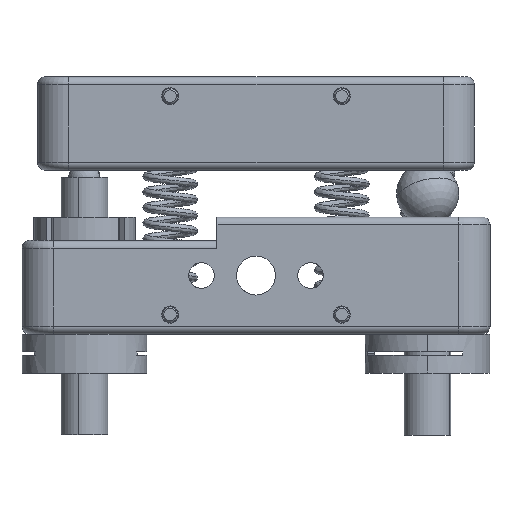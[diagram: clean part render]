
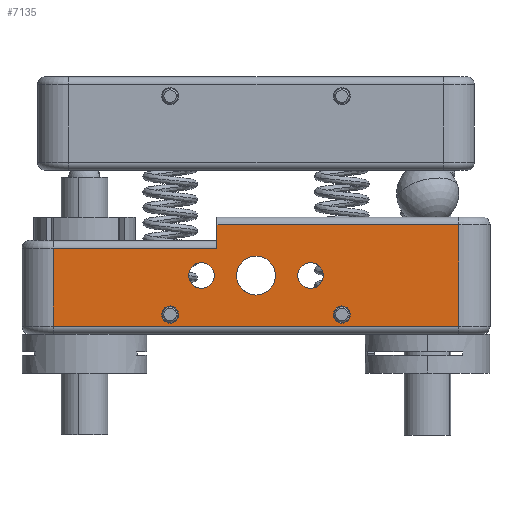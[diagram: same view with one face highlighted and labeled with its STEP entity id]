
A CAD part, left-side view. The second image highlights one B-rep face of the part: STEP entity #7135.
In plain terms, the highlighted planar face has unit normal (-1, 0, 0).
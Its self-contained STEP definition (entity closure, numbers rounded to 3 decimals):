
#139 = CARTESIAN_POINT ( 'NONE',  ( -31.266, 0.345, 7.5 ) ) ;
#360 = DIRECTION ( 'NONE',  ( 0., 0., 1. ) ) ;
#415 = LINE ( 'NONE', #22345, #14040 ) ;
#596 = DIRECTION ( 'NONE',  ( 0., 0., 1. ) ) ;
#611 = CARTESIAN_POINT ( 'NONE',  ( -31.266, 5.345, 14. ) ) ;
#751 = CIRCLE ( 'NONE', #18377, 2.5 ) ;
#1066 = CARTESIAN_POINT ( 'NONE',  ( -31.266, 11.345, 2.5 ) ) ;
#1121 = EDGE_CURVE ( 'NONE', #19876, #18665, #14256, .T. ) ;
#1164 = EDGE_CURVE ( 'NONE', #14823, #3009, #22794, .T. ) ;
#1325 = FACE_OUTER_BOUND ( 'NONE', #19090, .T. ) ;
#1754 = EDGE_CURVE ( 'NONE', #2995, #14491, #13714, .T. ) ;
#1864 = FACE_BOUND ( 'NONE', #15503, .T. ) ;
#2503 = CARTESIAN_POINT ( 'NONE',  ( -31.266, -6.655, 5.85 ) ) ;
#2519 = VECTOR ( 'NONE', #23290, 1000. ) ;
#2669 = LINE ( 'NONE', #11477, #21603 ) ;
#2922 = DIRECTION ( 'NONE',  ( 0., 0., 1. ) ) ;
#2995 = VERTEX_POINT ( 'NONE', #11334 ) ;
#3009 = VERTEX_POINT ( 'NONE', #22212 ) ;
#3884 = DIRECTION ( 'NONE',  ( 0., 0., 1. ) ) ;
#3917 = CARTESIAN_POINT ( 'NONE',  ( -31.266, 11.345, 1.4 ) ) ;
#4043 = DIRECTION ( 'NONE',  ( -1., 0., 0. ) ) ;
#4467 = DIRECTION ( 'NONE',  ( -1., 0., 0. ) ) ;
#4480 = EDGE_CURVE ( 'NONE', #8245, #5962, #21606, .T. ) ;
#4491 = CARTESIAN_POINT ( 'NONE',  ( -31.266, 11.345, 2.5 ) ) ;
#4654 = CIRCLE ( 'NONE', #17033, 1.65 ) ;
#4738 = EDGE_LOOP ( 'NONE', ( #14863, #12020 ) ) ;
#4907 = ORIENTED_EDGE ( 'NONE', *, *, #1754, .T. ) ;
#5051 = DIRECTION ( 'NONE',  ( 0., 0., 1. ) ) ;
#5213 = EDGE_CURVE ( 'NONE', #14491, #11153, #22602, .T. ) ;
#5410 = AXIS2_PLACEMENT_3D ( 'NONE', #139, #13088, #3884 ) ;
#5433 = CARTESIAN_POINT ( 'NONE',  ( -31.266, -6.655, 7.5 ) ) ;
#5525 = CARTESIAN_POINT ( 'NONE',  ( -31.266, 26.345, 1. ) ) ;
#5846 = CIRCLE ( 'NONE', #10540, 1.65 ) ;
#5962 = VERTEX_POINT ( 'NONE', #8619 ) ;
#6105 = AXIS2_PLACEMENT_3D ( 'NONE', #1066, #13964, #2922 ) ;
#6172 = ORIENTED_EDGE ( 'NONE', *, *, #7026, .F. ) ;
#6190 = CARTESIAN_POINT ( 'NONE',  ( -31.266, 30.345, 15. ) ) ;
#6227 = FACE_BOUND ( 'NONE', #18207, .T. ) ;
#6283 = EDGE_LOOP ( 'NONE', ( #15182, #6172 ) ) ;
#6354 = DIRECTION ( 'NONE',  ( 0., 0., 1. ) ) ;
#6403 = EDGE_CURVE ( 'NONE', #18665, #19876, #751, .T. ) ;
#6527 = CIRCLE ( 'NONE', #19911, 1.1 ) ;
#6692 = ORIENTED_EDGE ( 'NONE', *, *, #21227, .F. ) ;
#6878 = EDGE_CURVE ( 'NONE', #8822, #22264, #415, .T. ) ;
#6883 = DIRECTION ( 'NONE',  ( -1., 0., 0. ) ) ;
#6997 = ORIENTED_EDGE ( 'NONE', *, *, #9596, .T. ) ;
#7026 = EDGE_CURVE ( 'NONE', #12011, #23442, #7391, .T. ) ;
#7135 = ADVANCED_FACE ( 'NONE', ( #1864, #16042, #11767, #11164, #6227, #1325 ), #15362, .F. ) ;
#7287 = DIRECTION ( 'NONE',  ( 0., 0., 1. ) ) ;
#7308 = DIRECTION ( 'NONE',  ( -1., 0., 0. ) ) ;
#7391 = CIRCLE ( 'NONE', #17530, 1.1 ) ;
#7688 = ORIENTED_EDGE ( 'NONE', *, *, #1164, .F. ) ;
#8107 = DIRECTION ( 'NONE',  ( -1., 0., 0. ) ) ;
#8245 = VERTEX_POINT ( 'NONE', #11486 ) ;
#8301 = ORIENTED_EDGE ( 'NONE', *, *, #6878, .T. ) ;
#8324 = EDGE_CURVE ( 'NONE', #8822, #11153, #23362, .T. ) ;
#8619 = CARTESIAN_POINT ( 'NONE',  ( -31.266, 7.345, 5.85 ) ) ;
#8822 = VERTEX_POINT ( 'NONE', #13909 ) ;
#8825 = VECTOR ( 'NONE', #5051, 1000. ) ;
#9143 = ORIENTED_EDGE ( 'NONE', *, *, #22771, .F. ) ;
#9358 = EDGE_CURVE ( 'NONE', #5962, #8245, #5846, .T. ) ;
#9596 = EDGE_CURVE ( 'NONE', #22264, #21416, #17065, .T. ) ;
#9880 = ORIENTED_EDGE ( 'NONE', *, *, #5213, .T. ) ;
#9948 = DIRECTION ( 'NONE',  ( 1., 0., 0. ) ) ;
#9986 = CIRCLE ( 'NONE', #6105, 1.1 ) ;
#10010 = EDGE_CURVE ( 'NONE', #21416, #2995, #2669, .T. ) ;
#10319 = EDGE_CURVE ( 'NONE', #11189, #22458, #13324, .T. ) ;
#10540 = AXIS2_PLACEMENT_3D ( 'NONE', #22375, #11507, #360 ) ;
#10575 = EDGE_LOOP ( 'NONE', ( #15154, #12525 ) ) ;
#10695 = CARTESIAN_POINT ( 'NONE',  ( -31.266, 26.345, 11. ) ) ;
#11153 = VERTEX_POINT ( 'NONE', #611 ) ;
#11164 = FACE_BOUND ( 'NONE', #10575, .T. ) ;
#11189 = VERTEX_POINT ( 'NONE', #2503 ) ;
#11334 = CARTESIAN_POINT ( 'NONE',  ( -31.266, -25.655, 1. ) ) ;
#11477 = CARTESIAN_POINT ( 'NONE',  ( -31.266, 30.345, 1. ) ) ;
#11486 = CARTESIAN_POINT ( 'NONE',  ( -31.266, 7.345, 9.15 ) ) ;
#11507 = DIRECTION ( 'NONE',  ( -1., 0., 0. ) ) ;
#11767 = FACE_BOUND ( 'NONE', #4738, .T. ) ;
#12011 = VERTEX_POINT ( 'NONE', #3917 ) ;
#12020 = ORIENTED_EDGE ( 'NONE', *, *, #1121, .F. ) ;
#12269 = VECTOR ( 'NONE', #21520, 1000. ) ;
#12434 = CARTESIAN_POINT ( 'NONE',  ( -31.266, 5.345, 14. ) ) ;
#12525 = ORIENTED_EDGE ( 'NONE', *, *, #9358, .F. ) ;
#12949 = CARTESIAN_POINT ( 'NONE',  ( -31.266, -6.655, 9.15 ) ) ;
#13088 = DIRECTION ( 'NONE',  ( -1., 0., 0. ) ) ;
#13180 = EDGE_CURVE ( 'NONE', #23442, #12011, #9986, .T. ) ;
#13324 = CIRCLE ( 'NONE', #14406, 1.65 ) ;
#13524 = CARTESIAN_POINT ( 'NONE',  ( -31.266, -25.655, 14. ) ) ;
#13714 = LINE ( 'NONE', #16098, #8825 ) ;
#13909 = CARTESIAN_POINT ( 'NONE',  ( -31.266, 5.345, 11. ) ) ;
#13964 = DIRECTION ( 'NONE',  ( -1., 0., 0. ) ) ;
#14040 = VECTOR ( 'NONE', #18765, 1000. ) ;
#14256 = CIRCLE ( 'NONE', #5410, 2.5 ) ;
#14371 = CARTESIAN_POINT ( 'NONE',  ( -31.266, 11.345, 3.6 ) ) ;
#14406 = AXIS2_PLACEMENT_3D ( 'NONE', #5433, #18276, #7287 ) ;
#14491 = VERTEX_POINT ( 'NONE', #13524 ) ;
#14823 = VERTEX_POINT ( 'NONE', #21092 ) ;
#14863 = ORIENTED_EDGE ( 'NONE', *, *, #6403, .F. ) ;
#15069 = DIRECTION ( 'NONE',  ( 0., 0., 1. ) ) ;
#15154 = ORIENTED_EDGE ( 'NONE', *, *, #4480, .F. ) ;
#15182 = ORIENTED_EDGE ( 'NONE', *, *, #13180, .F. ) ;
#15362 = PLANE ( 'NONE',  #21910 ) ;
#15503 = EDGE_LOOP ( 'NONE', ( #6692, #7688 ) ) ;
#15515 = CARTESIAN_POINT ( 'NONE',  ( -31.266, -6.655, 7.5 ) ) ;
#16042 = FACE_BOUND ( 'NONE', #6283, .T. ) ;
#16055 = CARTESIAN_POINT ( 'NONE',  ( -31.266, 26.345, 15. ) ) ;
#16098 = CARTESIAN_POINT ( 'NONE',  ( -31.266, -25.655, 15. ) ) ;
#16931 = CARTESIAN_POINT ( 'NONE',  ( -31.266, -10.655, 2.5 ) ) ;
#16959 = DIRECTION ( 'NONE',  ( 0., -1., 0. ) ) ;
#17033 = AXIS2_PLACEMENT_3D ( 'NONE', #15515, #4467, #17343 ) ;
#17065 = LINE ( 'NONE', #16055, #12269 ) ;
#17343 = DIRECTION ( 'NONE',  ( 0., 0., 1. ) ) ;
#17363 = DIRECTION ( 'NONE',  ( -1., 0., 0. ) ) ;
#17530 = AXIS2_PLACEMENT_3D ( 'NONE', #4491, #17363, #6354 ) ;
#17868 = CARTESIAN_POINT ( 'NONE',  ( -31.266, -10.655, 2.5 ) ) ;
#18207 = EDGE_LOOP ( 'NONE', ( #9143, #18728 ) ) ;
#18276 = DIRECTION ( 'NONE',  ( -1., 0., 0. ) ) ;
#18297 = CARTESIAN_POINT ( 'NONE',  ( -31.266, 7.345, 7.5 ) ) ;
#18377 = AXIS2_PLACEMENT_3D ( 'NONE', #19041, #8107, #20885 ) ;
#18518 = VECTOR ( 'NONE', #596, 1000. ) ;
#18665 = VERTEX_POINT ( 'NONE', #22022 ) ;
#18728 = ORIENTED_EDGE ( 'NONE', *, *, #10319, .F. ) ;
#18765 = DIRECTION ( 'NONE',  ( 0., 1., 0. ) ) ;
#19041 = CARTESIAN_POINT ( 'NONE',  ( -31.266, 0.345, 7.5 ) ) ;
#19090 = EDGE_LOOP ( 'NONE', ( #6997, #22530, #4907, #9880, #19973, #8301 ) ) ;
#19502 = AXIS2_PLACEMENT_3D ( 'NONE', #16931, #4043, #15069 ) ;
#19686 = DIRECTION ( 'NONE',  ( 0., 0., 1. ) ) ;
#19876 = VERTEX_POINT ( 'NONE', #21767 ) ;
#19911 = AXIS2_PLACEMENT_3D ( 'NONE', #17868, #6883, #19686 ) ;
#19973 = ORIENTED_EDGE ( 'NONE', *, *, #8324, .F. ) ;
#20109 = DIRECTION ( 'NONE',  ( 0., 0., 1. ) ) ;
#20885 = DIRECTION ( 'NONE',  ( 0., 0., 1. ) ) ;
#21046 = AXIS2_PLACEMENT_3D ( 'NONE', #18297, #7308, #20109 ) ;
#21092 = CARTESIAN_POINT ( 'NONE',  ( -31.266, -10.655, 1.4 ) ) ;
#21227 = EDGE_CURVE ( 'NONE', #3009, #14823, #6527, .T. ) ;
#21416 = VERTEX_POINT ( 'NONE', #5525 ) ;
#21520 = DIRECTION ( 'NONE',  ( 0., 0., -1. ) ) ;
#21603 = VECTOR ( 'NONE', #16959, 1000. ) ;
#21606 = CIRCLE ( 'NONE', #21046, 1.65 ) ;
#21767 = CARTESIAN_POINT ( 'NONE',  ( -31.266, 0.345, 5. ) ) ;
#21910 = AXIS2_PLACEMENT_3D ( 'NONE', #6190, #9948, #22686 ) ;
#22022 = CARTESIAN_POINT ( 'NONE',  ( -31.266, 0.345, 10. ) ) ;
#22212 = CARTESIAN_POINT ( 'NONE',  ( -31.266, -10.655, 3.6 ) ) ;
#22264 = VERTEX_POINT ( 'NONE', #10695 ) ;
#22345 = CARTESIAN_POINT ( 'NONE',  ( -31.266, 26.345, 11. ) ) ;
#22375 = CARTESIAN_POINT ( 'NONE',  ( -31.266, 7.345, 7.5 ) ) ;
#22458 = VERTEX_POINT ( 'NONE', #12949 ) ;
#22530 = ORIENTED_EDGE ( 'NONE', *, *, #10010, .T. ) ;
#22602 = LINE ( 'NONE', #12434, #2519 ) ;
#22610 = CARTESIAN_POINT ( 'NONE',  ( -31.266, 5.345, 12. ) ) ;
#22686 = DIRECTION ( 'NONE',  ( 0., 0., -1. ) ) ;
#22771 = EDGE_CURVE ( 'NONE', #22458, #11189, #4654, .T. ) ;
#22794 = CIRCLE ( 'NONE', #19502, 1.1 ) ;
#23290 = DIRECTION ( 'NONE',  ( 0., 1., 0. ) ) ;
#23362 = LINE ( 'NONE', #22610, #18518 ) ;
#23442 = VERTEX_POINT ( 'NONE', #14371 ) ;
